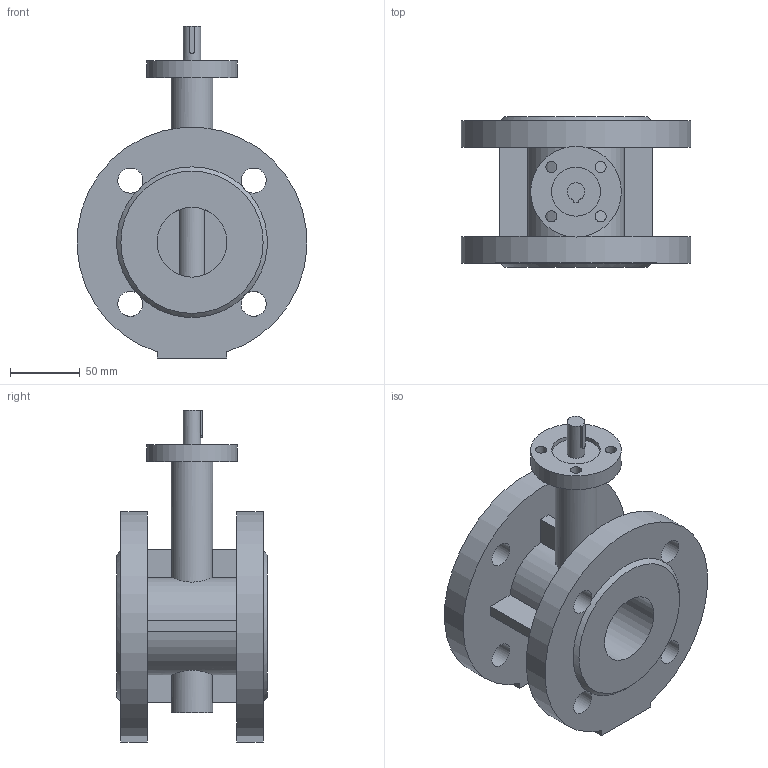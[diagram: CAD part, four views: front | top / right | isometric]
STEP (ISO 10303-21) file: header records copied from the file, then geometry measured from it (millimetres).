
FILE_DESCRIPTION(('STEP AP203'), '1');
FILE_NAME('Çàòâîð 021F.Y DN50 PN10_16 ïîä ÝÏ', '', ('UNSPECIFIED'), ('UNSPECIFIED'), 'ASCON STEP Converter 1.6', 'ASCON Math Kernel', '');
FILE_SCHEMA(('CONFIG_CONTROL_DESIGN'));
Length unit declared in the file: millimetre
Bounding box: 164.7 x 108 x 238 mm (x, y, z)
Volume: 1037760 mm3; surface area: 159823.8 mm2
Topology: 1 solids, 1 shells, 72 faces, 207 edges, 138 vertices
Faces by surface type: plane 42, cylinder 28, cone 2
Full cylindrical faces by diameter (mm): 8 x4, 12.6 x1, 18 x8, 30 x2, 35 x1, 50 x2, 65 x1
Entity records: 4044 total; most frequent: CARTESIAN_POINT 1531, DIRECTION 391, ORIENTED_EDGE 372, EDGE_CURVE 186, AXIS2_PLACEMENT_3D 151, VERTEX_POINT 138, EDGE_LOOP 118, FACE_BOUND 91
